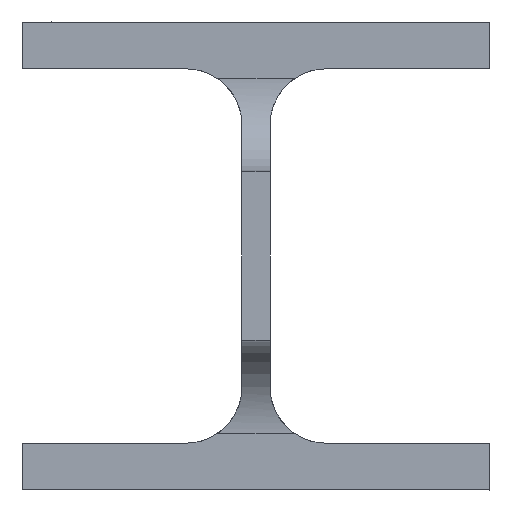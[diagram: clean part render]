
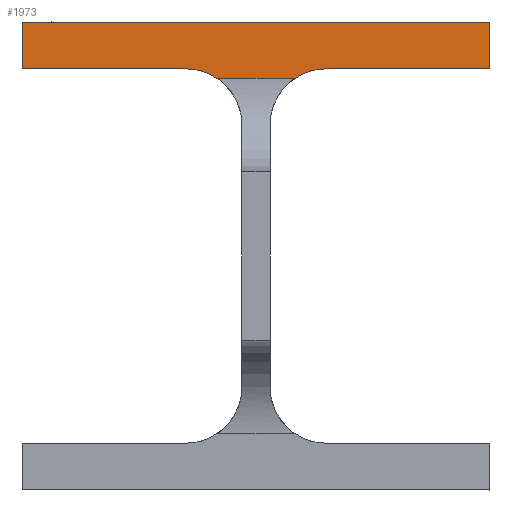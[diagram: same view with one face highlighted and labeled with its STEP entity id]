
A CAD part, front view. The second image highlights one B-rep face of the part: STEP entity #1973.
In plain terms, the highlighted planar face has unit normal (0, -1, 0).
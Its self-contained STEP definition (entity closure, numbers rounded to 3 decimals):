
#8 = CARTESIAN_POINT ( 'NONE',  ( 6333.633, 52., 2378. ) ) ;
#32 = VERTEX_POINT ( 'NONE', #878 ) ;
#56 = EDGE_CURVE ( 'NONE', #2841, #4312, #1567, .T. ) ;
#217 = VERTEX_POINT ( 'NONE', #3846 ) ;
#265 = AXIS2_PLACEMENT_3D ( 'NONE', #1845, #1510, #2783 ) ;
#269 = AXIS2_PLACEMENT_3D ( 'NONE', #2366, #4345, #1314 ) ;
#490 = VERTEX_POINT ( 'NONE', #8 ) ;
#494 = ORIENTED_EDGE ( 'NONE', *, *, #56, .T. ) ;
#652 = CARTESIAN_POINT ( 'NONE',  ( 6392., 52., 2380. ) ) ;
#671 = CARTESIAN_POINT ( 'NONE',  ( 6392., 52., 2380. ) ) ;
#699 = CIRCLE ( 'NONE', #3772, 12. ) ;
#801 = CARTESIAN_POINT ( 'NONE',  ( 11000., 52., 2378. ) ) ;
#878 = CARTESIAN_POINT ( 'NONE',  ( 6350.367, 52., 2378. ) ) ;
#926 = DIRECTION ( 'NONE',  ( 0., 0., 1. ) ) ;
#1080 = DIRECTION ( 'NONE',  ( -1., 0., 0. ) ) ;
#1258 = EDGE_CURVE ( 'NONE', #3282, #3366, #3721, .T. ) ;
#1268 = VECTOR ( 'NONE', #1080, 1000. ) ;
#1276 = DIRECTION ( 'NONE',  ( 0., 0., -1. ) ) ;
#1314 = DIRECTION ( 'NONE',  ( 0., 0., -1. ) ) ;
#1416 = FACE_OUTER_BOUND ( 'NONE', #1724, .T. ) ;
#1510 = DIRECTION ( 'NONE',  ( 0., -1., 0. ) ) ;
#1567 = LINE ( 'NONE', #2937, #4202 ) ;
#1584 = DIRECTION ( 'NONE',  ( 0., 0., -1. ) ) ;
#1638 = DIRECTION ( 'NONE',  ( 1., 0., 0. ) ) ;
#1724 = EDGE_LOOP ( 'NONE', ( #3129, #3603, #3051, #2394, #494, #3935, #4013, #2929 ) ) ;
#1812 = CARTESIAN_POINT ( 'NONE',  ( 6392., 52., 2390. ) ) ;
#1845 = CARTESIAN_POINT ( 'NONE',  ( 11000., 52., 2390. ) ) ;
#1912 = VERTEX_POINT ( 'NONE', #4105 ) ;
#1973 = ADVANCED_FACE ( 'NONE', ( #1416 ), #3527, .T. ) ;
#2150 = DIRECTION ( 'NONE',  ( -1., 0., 0. ) ) ;
#2257 = VECTOR ( 'NONE', #2150, 1000. ) ;
#2292 = DIRECTION ( 'NONE',  ( 1., 0., 0. ) ) ;
#2314 = CARTESIAN_POINT ( 'NONE',  ( 6357., 52., 2380. ) ) ;
#2366 = CARTESIAN_POINT ( 'NONE',  ( 6327., 52., 2368. ) ) ;
#2394 = ORIENTED_EDGE ( 'NONE', *, *, #3261, .T. ) ;
#2541 = LINE ( 'NONE', #801, #2257 ) ;
#2564 = VECTOR ( 'NONE', #1638, 1000. ) ;
#2679 = LINE ( 'NONE', #2314, #4133 ) ;
#2776 = LINE ( 'NONE', #3429, #1268 ) ;
#2783 = DIRECTION ( 'NONE',  ( 0., 0., -1. ) ) ;
#2800 = EDGE_CURVE ( 'NONE', #32, #490, #2541, .T. ) ;
#2841 = VERTEX_POINT ( 'NONE', #4309 ) ;
#2929 = ORIENTED_EDGE ( 'NONE', *, *, #2800, .F. ) ;
#2937 = CARTESIAN_POINT ( 'NONE',  ( 6292., 52., 2390. ) ) ;
#2987 = CARTESIAN_POINT ( 'NONE',  ( 6357., 52., 2368. ) ) ;
#3051 = ORIENTED_EDGE ( 'NONE', *, *, #1258, .T. ) ;
#3129 = ORIENTED_EDGE ( 'NONE', *, *, #3646, .T. ) ;
#3261 = EDGE_CURVE ( 'NONE', #3366, #2841, #2776, .T. ) ;
#3282 = VERTEX_POINT ( 'NONE', #671 ) ;
#3366 = VERTEX_POINT ( 'NONE', #1812 ) ;
#3387 = CARTESIAN_POINT ( 'NONE',  ( 6292., 52., 2380. ) ) ;
#3429 = CARTESIAN_POINT ( 'NONE',  ( 6392., 52., 2390. ) ) ;
#3527 = PLANE ( 'NONE',  #265 ) ;
#3560 = VECTOR ( 'NONE', #926, 1000. ) ;
#3576 = EDGE_CURVE ( 'NONE', #4312, #217, #3654, .T. ) ;
#3603 = ORIENTED_EDGE ( 'NONE', *, *, #3784, .T. ) ;
#3646 = EDGE_CURVE ( 'NONE', #32, #1912, #699, .T. ) ;
#3654 = LINE ( 'NONE', #4328, #2564 ) ;
#3700 = CIRCLE ( 'NONE', #269, 12. ) ;
#3721 = LINE ( 'NONE', #652, #3560 ) ;
#3772 = AXIS2_PLACEMENT_3D ( 'NONE', #2987, #4353, #1276 ) ;
#3784 = EDGE_CURVE ( 'NONE', #1912, #3282, #2679, .T. ) ;
#3838 = EDGE_CURVE ( 'NONE', #217, #490, #3700, .T. ) ;
#3846 = CARTESIAN_POINT ( 'NONE',  ( 6327., 52., 2380. ) ) ;
#3935 = ORIENTED_EDGE ( 'NONE', *, *, #3576, .T. ) ;
#4013 = ORIENTED_EDGE ( 'NONE', *, *, #3838, .T. ) ;
#4105 = CARTESIAN_POINT ( 'NONE',  ( 6357., 52., 2380. ) ) ;
#4133 = VECTOR ( 'NONE', #2292, 1000. ) ;
#4202 = VECTOR ( 'NONE', #1584, 1000. ) ;
#4309 = CARTESIAN_POINT ( 'NONE',  ( 6292., 52., 2390. ) ) ;
#4312 = VERTEX_POINT ( 'NONE', #3387 ) ;
#4328 = CARTESIAN_POINT ( 'NONE',  ( 6292., 52., 2380. ) ) ;
#4345 = DIRECTION ( 'NONE',  ( 0., 1., 0. ) ) ;
#4353 = DIRECTION ( 'NONE',  ( 0., 1., 0. ) ) ;
